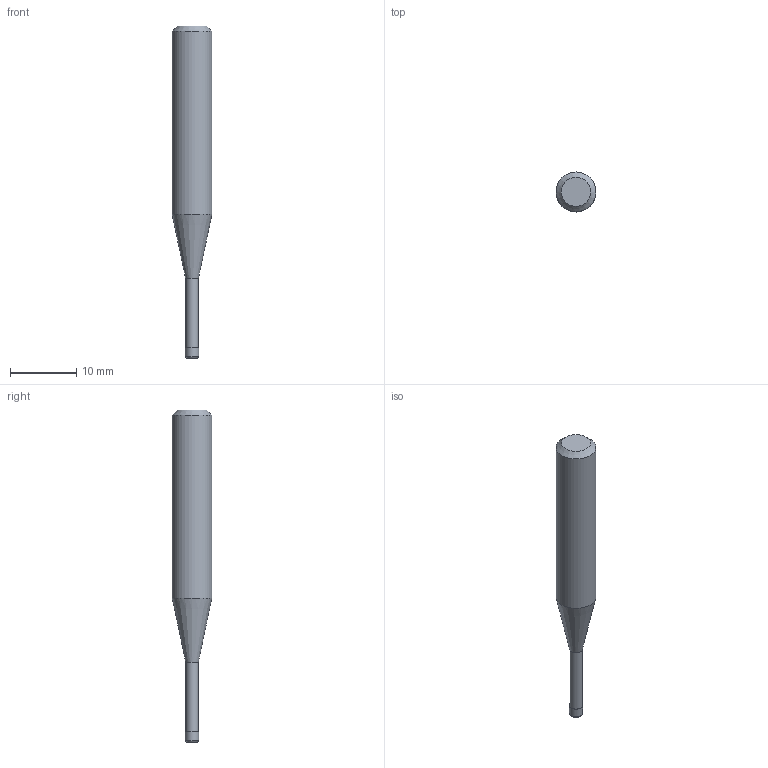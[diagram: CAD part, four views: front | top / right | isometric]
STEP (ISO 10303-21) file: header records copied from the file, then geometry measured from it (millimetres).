
FILE_DESCRIPTION((''),'2;1');
FILE_NAME('C:\Users\nsx150\AppData\Local\Temp\Mastercam 2021\17T8Q8S9EB\TEMP.step','2021-04-21T14:37:12',(''),(''),'STEP Write','Mastercam 2021 ... CNC Software, Inc.','');
FILE_SCHEMA(('AUTOMOTIVE_DESIGN'));
Length unit declared in the file: millimetre
Products named in the file (1): None
Bounding box: 6 x 6 x 50 mm (x, y, z)
Volume: 960.4 mm3; surface area: 756.8 mm2
Topology: 2 solids, 2 shells, 10 faces, 14 edges, 8 vertices
Faces by surface type: plane 4, cylinder 3, cone 2, torus 1
Full cylindrical faces by diameter (mm): 1.91 x1, 2 x1, 6 x1
Entity records: 232 total; most frequent: DIRECTION 40, CARTESIAN_POINT 28, AXIS2_PLACEMENT_3D 20, ORIENTED_EDGE 16, EDGE_LOOP 16, STYLED_ITEM 13, ADVANCED_FACE 10, FACE_BOUND 10
